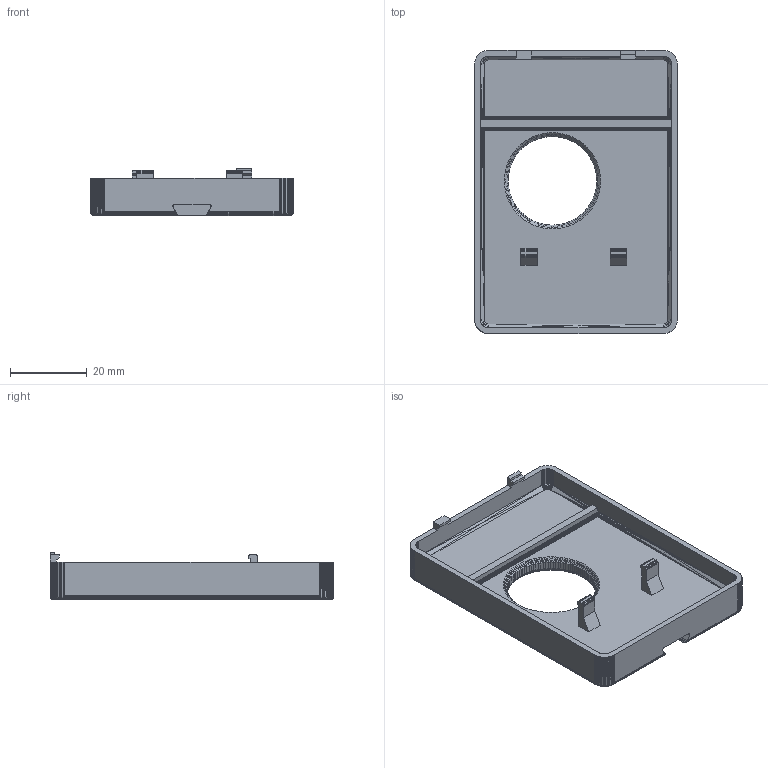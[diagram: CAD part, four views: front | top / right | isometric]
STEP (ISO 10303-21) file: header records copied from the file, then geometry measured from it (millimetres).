
FILE_DESCRIPTION(('Open CASCADE Model'),'2;1');
FILE_NAME('Open CASCADE Shape Model','2026-08-09T08:59:07',('Author'),( 'Open CASCADE'),'Open CASCADE STEP processor 7.9','Open CASCADE 7.9' ,'Unknown');
FILE_SCHEMA(('AUTOMOTIVE_DESIGN { 1 0 10303 214 1 1 1 1 }'));
Products named in the file (1): Open CASCADE STEP translator 7.9 4
Bounding box: 53 x 74 x 12.4 mm (x, y, z)
Volume: 15815.3 mm3; surface area: 11407.1 mm2
Topology: 1 solids, 1 shells, 4452 faces, 7166 edges, 2718 vertices
Faces by surface type: plane 4452
Entity records: 178343 total; most frequent: CARTESIAN_POINT 34724, DIRECTION 24349, LINE 15443, VECTOR 15443, ORIENTED_EDGE 14332, PCURVE 14332, DEFINITIONAL_REPRESENTATION 14332, EDGE_CURVE 7166
